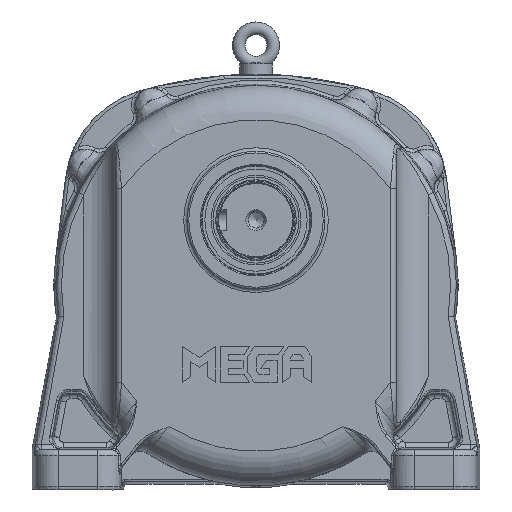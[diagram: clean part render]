
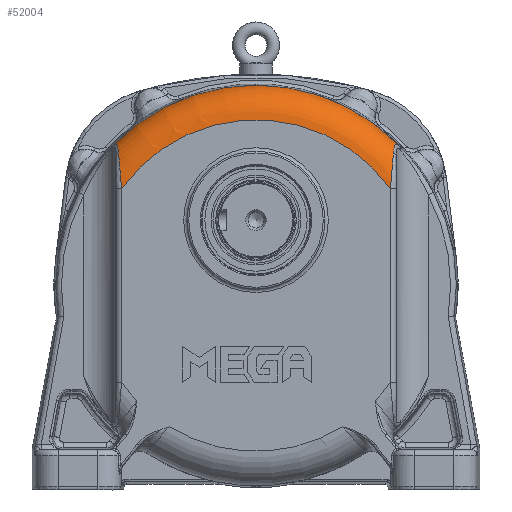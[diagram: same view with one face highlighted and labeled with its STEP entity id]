
A CAD part, front view. The second image highlights one B-rep face of the part: STEP entity #52004.
In plain terms, the highlighted toroidal (fillet/blend) face has major radius 144.309 mm and minor radius 30 mm.
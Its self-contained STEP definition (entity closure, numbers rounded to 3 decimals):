
#1476=TOROIDAL_SURFACE('',#56597,144.309,30.);
#3947=FACE_OUTER_BOUND('',#7180,.T.);
#7180=EDGE_LOOP('',(#38708,#38709,#38710,#38711,#38712,#38713));
#10294=CIRCLE('',#56070,144.309);
#10609=CIRCLE('',#56598,174.308);
#18821=B_SPLINE_CURVE_WITH_KNOTS('',3,(#92098,#92099,#92100,#92101,#92102,
#92103,#92104,#92105),.UNSPECIFIED.,.F.,.F.,(4,1,1,1,1,4),(0.,0.574,
0.862,1.436,1.723,2.011),
 .UNSPECIFIED.);
#18822=B_SPLINE_CURVE_WITH_KNOTS('',3,(#92138,#92139,#92140,#92141,#92142),
 .UNSPECIFIED.,.F.,.F.,(4,1,4),(-3.01,-1.29,0.),
 .UNSPECIFIED.);
#18834=B_SPLINE_CURVE_WITH_KNOTS('',3,(#92525,#92526,#92527,#92528,#92529,
#92530),.UNSPECIFIED.,.F.,.F.,(4,1,1,4),(-3.01,-2.15,
-1.29,0.),.UNSPECIFIED.);
#18836=B_SPLINE_CURVE_WITH_KNOTS('',3,(#92580,#92581,#92582,#92583,#92584,
#92585,#92586,#92587),.UNSPECIFIED.,.F.,.F.,(4,1,1,1,1,4),(-2.011,
-1.723,-1.436,-0.862,-0.574,
0.),.UNSPECIFIED.);
#21587=VERTEX_POINT('',#85740);
#21588=VERTEX_POINT('',#85742);
#22017=VERTEX_POINT('',#92031);
#22019=VERTEX_POINT('',#92096);
#22032=VERTEX_POINT('',#92523);
#22034=VERTEX_POINT('',#92578);
#27209=EDGE_CURVE('',#21588,#21587,#10294,.T.);
#27918=EDGE_CURVE('',#22019,#22017,#18821,.T.);
#27920=EDGE_CURVE('',#21588,#22019,#18822,.T.);
#27943=EDGE_CURVE('',#22032,#21587,#18834,.T.);
#27946=EDGE_CURVE('',#22034,#22032,#18836,.T.);
#27952=EDGE_CURVE('',#22034,#22017,#10609,.T.);
#38708=ORIENTED_EDGE('',*,*,#27920,.F.);
#38709=ORIENTED_EDGE('',*,*,#27209,.T.);
#38710=ORIENTED_EDGE('',*,*,#27943,.F.);
#38711=ORIENTED_EDGE('',*,*,#27946,.F.);
#38712=ORIENTED_EDGE('',*,*,#27952,.T.);
#38713=ORIENTED_EDGE('',*,*,#27918,.F.);
#52004=ADVANCED_FACE('',(#3947),#1476,.T.);
#56070=AXIS2_PLACEMENT_3D('',#85743,#65778,#65779);
#56597=AXIS2_PLACEMENT_3D('',#92664,#67015,#67016);
#56598=AXIS2_PLACEMENT_3D('',#92665,#67017,#67018);
#65778=DIRECTION('center_axis',(0.,1.,0.));
#65779=DIRECTION('ref_axis',(-1.,0.,0.));
#67015=DIRECTION('center_axis',(0.,1.,0.));
#67016=DIRECTION('ref_axis',(0.,0.,1.));
#67017=DIRECTION('center_axis',(0.,-1.,0.));
#67018=DIRECTION('ref_axis',(-1.,0.,0.));
#85740=CARTESIAN_POINT('',(104.309,-19.258,82.726));
#85742=CARTESIAN_POINT('',(-129.691,-19.258,82.726));
#85743=CARTESIAN_POINT('Origin',(-12.691,-19.258,-1.75));
#92031=CARTESIAN_POINT('',(-137.843,10.431,119.577));
#92096=CARTESIAN_POINT('',(-132.328,-9.658,113.768));
#92098=CARTESIAN_POINT('Ctrl Pts',(-132.328,-9.658,
113.768));
#92099=CARTESIAN_POINT('Ctrl Pts',(-132.464,-8.28,
115.467));
#92100=CARTESIAN_POINT('Ctrl Pts',(-132.747,-5.886,117.822));
#92101=CARTESIAN_POINT('Ctrl Pts',(-133.662,-0.986,
120.65));
#92102=CARTESIAN_POINT('Ctrl Pts',(-134.896,3.515,121.518));
#92103=CARTESIAN_POINT('Ctrl Pts',(-136.522,7.679,120.773));
#92104=CARTESIAN_POINT('Ctrl Pts',(-137.396,9.55,120.024));
#92105=CARTESIAN_POINT('Ctrl Pts',(-137.843,10.431,119.577));
#92138=CARTESIAN_POINT('Ctrl Pts',(-129.691,-19.258,
82.726));
#92139=CARTESIAN_POINT('Ctrl Pts',(-130.235,-19.258,
88.852));
#92140=CARTESIAN_POINT('Ctrl Pts',(-131.187,-17.871,99.762));
#92141=CARTESIAN_POINT('Ctrl Pts',(-132.023,-12.751,
109.954));
#92142=CARTESIAN_POINT('Ctrl Pts',(-132.328,-9.658,113.768));
#92523=CARTESIAN_POINT('',(106.946,-9.658,113.768));
#92525=CARTESIAN_POINT('Ctrl Pts',(106.946,-9.658,113.768));
#92526=CARTESIAN_POINT('Ctrl Pts',(106.743,-11.72,111.226));
#92527=CARTESIAN_POINT('Ctrl Pts',(106.288,-15.051,105.632));
#92528=CARTESIAN_POINT('Ctrl Pts',(105.397,-18.506,95.069));
#92529=CARTESIAN_POINT('Ctrl Pts',(104.717,-19.258,87.321));
#92530=CARTESIAN_POINT('Ctrl Pts',(104.309,-19.258,82.726));
#92578=CARTESIAN_POINT('',(112.46,10.431,119.577));
#92580=CARTESIAN_POINT('Ctrl Pts',(112.46,10.431,119.577));
#92581=CARTESIAN_POINT('Ctrl Pts',(112.014,9.55,120.024));
#92582=CARTESIAN_POINT('Ctrl Pts',(111.14,7.678,120.774));
#92583=CARTESIAN_POINT('Ctrl Pts',(109.514,3.515,121.518));
#92584=CARTESIAN_POINT('Ctrl Pts',(108.279,-0.986,120.65));
#92585=CARTESIAN_POINT('Ctrl Pts',(107.364,-5.886,117.822));
#92586=CARTESIAN_POINT('Ctrl Pts',(107.082,-8.28,115.467));
#92587=CARTESIAN_POINT('Ctrl Pts',(106.946,-9.658,113.768));
#92664=CARTESIAN_POINT('Origin',(-12.691,10.742,-1.75));
#92665=CARTESIAN_POINT('Origin',(-12.691,10.431,-1.75));
